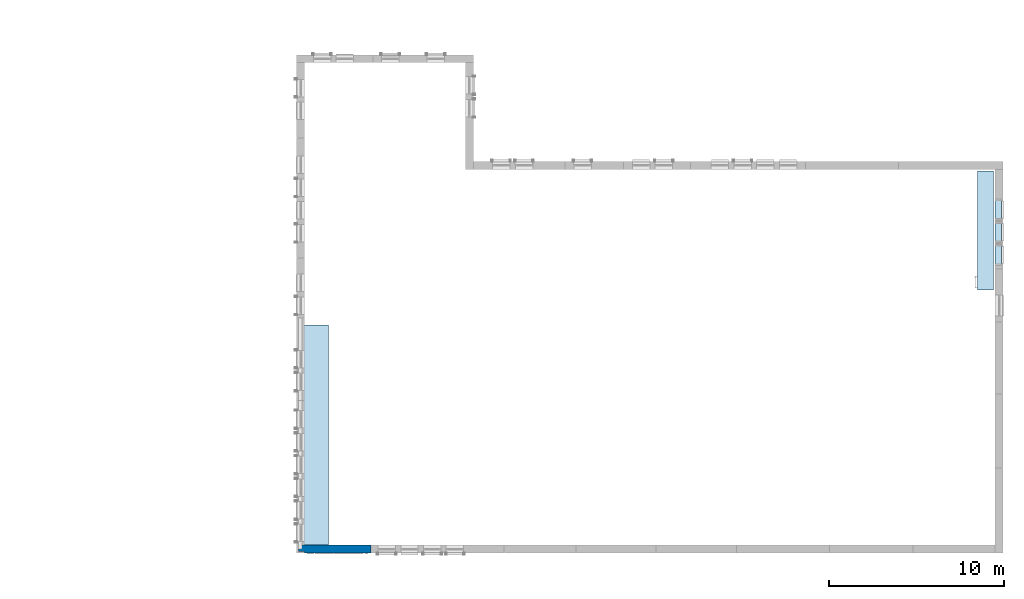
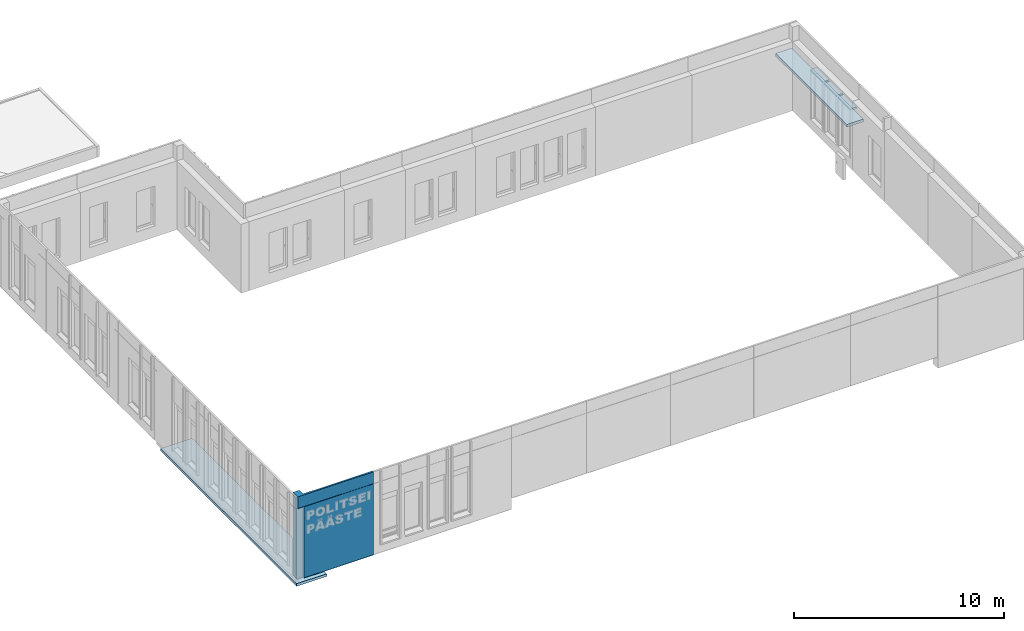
# One storey, part 1 of 33: 5 slabs, 1 wall, 2 openings.
"""IFC2X3 building model written with IfcOpenShell, lengths in millimetres."""

from ifc_helpers import new_model, entity, si_unit, converted_unit, derived_unit, direction, frame, frame_2d, origin, origin_2d_with_axis, place, context, subcontext, project, spatial, polyline, rectangle, outline, extrude, clip, bounded_halfspace, faceted_brep, material, layer, layer_set, layer_usage, type_object, element, save


model = new_model("IFC2X3")

# Units and contexts
model_context = context("Model", 3, precision=0.01, world=origin(), true_north=direction((6.12303176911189e-17, 1.0)))
body_context = subcontext(model_context, "Body", "Model", "MODEL_VIEW")
ifc_project = project(units=[si_unit("LENGTHUNIT", "METRE", prefix="MILLI"), si_unit("AREAUNIT", "SQUARE_METRE"), si_unit("VOLUMEUNIT", "CUBIC_METRE"), converted_unit("PLANEANGLEUNIT", "DEGREE", entity("IfcRatioMeasure", 0.0174532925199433), si_unit("PLANEANGLEUNIT", "RADIAN"), dimensions=[0, 0, 0, 0, 0, 0, 0]), si_unit("MASSUNIT", "GRAM", prefix="KILO"), derived_unit("MASSDENSITYUNIT", [(si_unit("MASSUNIT", "GRAM", prefix="KILO"), 1), (si_unit("LENGTHUNIT", "METRE"), -3)]), si_unit("TIMEUNIT", "SECOND"), si_unit("FREQUENCYUNIT", "HERTZ"), si_unit("THERMODYNAMICTEMPERATUREUNIT", "DEGREE_CELSIUS"), derived_unit("THERMALTRANSMITTANCEUNIT", [(si_unit("MASSUNIT", "GRAM", prefix="KILO"), 1), (si_unit("THERMODYNAMICTEMPERATUREUNIT", "KELVIN"), -1), (si_unit("TIMEUNIT", "SECOND"), -3)]), derived_unit("VOLUMETRICFLOWRATEUNIT", [(si_unit("LENGTHUNIT", "METRE"), 3), (si_unit("TIMEUNIT", "SECOND"), -1)]), si_unit("ELECTRICCURRENTUNIT", "AMPERE"), si_unit("ELECTRICVOLTAGEUNIT", "VOLT"), si_unit("POWERUNIT", "WATT"), si_unit("FORCEUNIT", "NEWTON", prefix="KILO"), si_unit("ILLUMINANCEUNIT", "LUX"), si_unit("LUMINOUSFLUXUNIT", "LUMEN"), si_unit("LUMINOUSINTENSITYUNIT", "CANDELA"), derived_unit("USERDEFINED", [(si_unit("MASSUNIT", "GRAM", prefix="KILO"), -1), (si_unit("LENGTHUNIT", "METRE"), -2), (si_unit("TIMEUNIT", "SECOND"), 3), (si_unit("LUMINOUSFLUXUNIT", "LUMEN"), 1)]), derived_unit("LINEARVELOCITYUNIT", [(si_unit("LENGTHUNIT", "METRE"), 1), (si_unit("TIMEUNIT", "SECOND"), -1)]), si_unit("PRESSUREUNIT", "PASCAL"), derived_unit("USERDEFINED", [(si_unit("LENGTHUNIT", "METRE"), -2), (si_unit("MASSUNIT", "GRAM", prefix="KILO"), 1), (si_unit("TIMEUNIT", "SECOND"), -2)])], contexts=[model_context])

# Site, building, storey
site_placement = place(None, origin())
site = spatial("IfcSite", under=ifc_project, at=site_placement, Name="Default", CompositionType="ELEMENT")
building_placement = place(site_placement, origin())
building = spatial("IfcBuilding", under=site, at=building_placement, CompositionType="ELEMENT")
storey_placement = place(building_placement, frame((0.0, 0.0, 4000.0)))
storey = spatial("IfcBuildingStorey", under=building, at=storey_placement, Name="2. KORRUS", CompositionType="ELEMENT", Elevation=4000.0)

# Slabs
ifc_material_1 = material(Name="Soojusisolatsioon PIR")
ifc_layer_1 = layer(ifc_material_1, 150.0)
ifc_layer_set_1 = layer_set([ifc_layer_1], Name="Floor:VL-3")
ifc_layer_usage_1 = layer_usage(ifc_layer_set_1, "AXIS3", "POSITIVE", 0.0)
slab_1_placement = place(storey_placement, origin())
element("IfcSlab", 1, at=slab_1_placement, inside=storey, material=ifc_layer_usage_1, Name="Floor:VL-3", ObjectType="Floor:VL-3", PredefinedType="FLOOR", context=body_context, shape_type="SweptSolid", body=[
    extrude(outline(polyline([(-4433.33333333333, -1126.35969139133), (8516.66666666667, -1126.35969139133), (8516.66666666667, 602.644845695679), (-4083.33333333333, 602.644845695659), (-4083.33333333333, 523.714845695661), (-4433.33333333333, 523.714845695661), (-4433.33333333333, -1126.35969139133)])), frame((776.359691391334, 4083.33333333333, -400.0), z_axis=(0.0, 0.0, -1.0), x_axis=(0.0, 1.0, 0.0)), (0.0, 0.0, 1.0), 150.0),
])
ifc_material_2 = material(Name="Soojusisolatsioon PIR fooliumkattega")
ifc_layer_2 = layer(ifc_material_2, 150.0)
ifc_layer_set_2 = layer_set([ifc_layer_2], Name="Floor:pir-fooliumkattega")
ifc_layer_usage_2 = layer_usage(ifc_layer_set_2, "AXIS3", "POSITIVE", 0.0)
slab_2_placement = place(storey_placement, origin())
element("IfcSlab", 2, at=slab_2_placement, inside=storey, material=ifc_layer_usage_2, Name="Floor:pir-fooliumkattega", ObjectType="Floor:pir-fooliumkattega", PredefinedType="FLOOR", context=body_context, shape_type="SweptSolid", body=[
    extrude(rectangle(XDim=6810.00000000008, YDim=899.925462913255, at=frame_2d((-1.13686837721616e-12, -4.32009983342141e-12), x_axis=(1.0, 0.0))), frame((38950.0372685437, 17995.0, 3600.0), z_axis=(0.0, 0.0, -1.0), x_axis=(0.0, 1.0, 0.0)), (0.0, 0.0, 1.0), 149.999999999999),
])
ifc_layer_3 = layer(ifc_material_2, 100.0)
ifc_layer_set_3 = layer_set([ifc_layer_3], Name="Floor:pir-paneel100")
ifc_layer_usage_3 = layer_usage(ifc_layer_set_3, "AXIS3", "POSITIVE", 0.0)
slab_3_placement = place(storey_placement, frame((39500.0, 16000.0, 3200.0)))
element("IfcSlab", 3, at=slab_3_placement, inside=storey, material=ifc_layer_usage_3, Name="Floor:pir-paneel100", ObjectType="Floor:pir-paneel100", PredefinedType="FLOOR", context=body_context, shape_type="SweptSolid", body=[
    extrude(rectangle(XDim=349.999999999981, YDim=1200.0, at=frame_2d((0.0, 1300.0), x_axis=(1.0, 0.0))), frame((175.0, 1900.0, 100.0), z_axis=(0.0, 0.0, -1.0), x_axis=(-1.0, 0.0, 0.0)), (0.0, 0.0, 1.0), 100.0),
])
slab_4_placement = place(storey_placement, frame((39500.0, 16000.0, 3200.0)))
element("IfcSlab", 4, at=slab_4_placement, inside=storey, material=ifc_layer_usage_3, Name="Floor:pir-paneel100:2", ObjectType="Floor:pir-paneel100", PredefinedType="FLOOR", context=body_context, shape_type="SweptSolid", body=[
    extrude(rectangle(XDim=349.999999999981, YDim=1200.0, at=origin_2d_with_axis()), frame((175.0, 1900.0, 100.0), z_axis=(0.0, 0.0, -1.0), x_axis=(-1.0, 0.0, 0.0)), (0.0, 0.0, 1.0), 100.0),
])
slab_5_placement = place(storey_placement, frame((39500.0, 16000.0, 3200.0)))
element("IfcSlab", 5, at=slab_5_placement, inside=storey, material=ifc_layer_usage_3, Name="Floor:pir-paneel100:3", ObjectType="Floor:pir-paneel100", PredefinedType="FLOOR", context=body_context, shape_type="SweptSolid", body=[
    extrude(rectangle(XDim=349.999999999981, YDim=1200.0, at=frame_2d((0.0, -1300.0), x_axis=(1.0, 0.0))), frame((175.0, 1900.0, 100.0), z_axis=(0.0, 0.0, -1.0), x_axis=(-1.0, 0.0, 0.0)), (0.0, 0.0, 1.0), 100.0),
])

# Wall, openings
ifc_material_3 = material(Name="RECKLI 1 173 THUR by Polantis 2016-toon1")
ifc_layer_4 = layer(ifc_material_3, 100.0)
ifc_layer_5 = layer(ifc_material_1, 150.0)
ifc_material_4 = material(Name="r/b")
ifc_layer_6 = layer(ifc_material_4, 200.0)
ifc_layer_set_4 = layer_set([ifc_layer_4, ifc_layer_5, ifc_layer_6], Name="Basic Wall:VS-2 -toon-d")
ifc_layer_usage_4 = layer_usage(ifc_layer_set_4, "AXIS2", "NEGATIVE", 225.0)
wall_type = type_object("IfcWallType", Name="Basic Wall:VS-2 -toon-d", PredefinedType="STANDARD", material=ifc_layer_set_4)
wall_placement = place(storey_placement, frame((3810.0, -225.0, -135.0), z_axis=(0.0, 0.0, 1.0), x_axis=(-1.0, 0.0, 0.0)))
wall = element("IfcWallStandardCase", 6, at=wall_placement, inside=storey, type_object=wall_type, material=ifc_layer_usage_4, Name="Basic Wall:VS-2 -toon-d", ObjectType="Basic Wall:VS-2 -toon-d", context=body_context, shape_type="Clipping", body=[
    clip(clip(extrude(rectangle(XDim=4160.00000000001, YDim=450.0, at=frame_2d((2080.00000000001, 2.8421709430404e-14), x_axis=(-1.0, 0.0))), origin(), (0.0, 0.0, 1.0), 4835.0), bounded_halfspace(frame((0.0, -225.0, 4135.0), z_axis=(0.0, 0.0, 1.0), x_axis=(0.0, 1.0, 0.0)), False, frame((0.0, -225.0, 4135.0)), polyline([(0.0, 0.0), (3810.0, 0.0), (3810.0, 350.0), (0.0, 350.0), (0.0, 0.0)]))), bounded_halfspace(frame((4160.0, 125.0, 4135.0), z_axis=(0.0, 0.0, -1.0), x_axis=(-1.0, 0.0, 0.0)), False, frame((4160.0, 125.0, 4135.0)), polyline([(0.0, 0.0), (0.0, 100.0), (-350.0, 100.0), (-350.0, 0.0), (0.0, 0.0)]))),
])
opening_1_placement = place(wall_placement, frame((4260.0, 225.0, 4.0)))
element("IfcOpeningElement", 7, at=opening_1_placement, cuts=wall, Name="Basic Wall:VS-2 -toon-d", ObjectType="Opening", context=body_context, shape_type="Brep", body=[
    faceted_brep([(-11850.0, -20.0, 16.0), (-11850.0, 0.0, 16.0), (-11850.0, 0.0, 0.0), (-11850.0, -20.0, 0.0), (-4260.0, -20.0, 16.0), (-4260.0, -20.0, 0.0), (-4260.0, 0.0, 0.0), (-4260.0, 0.0, 16.0)], [[[0, 1, 2, 3]], [[4, 5, 6, 7]], [[1, 0, 4, 7]], [[2, 1, 7, 6]], [[3, 2, 6, 5]], [[0, 3, 5, 4]]]),
    faceted_brep([(-20.0, -28480.0, 16.0), (-20.0, -28480.0, 0.0), (0.0, -28500.0, 0.0), (0.0, -28500.0, 16.0), (-20.0, -23740.0, 16.0), (0.0, -23740.0, 16.0), (0.0, -23740.0, 0.0), (-20.0, -23740.0, 0.0)], [[[0, 1, 2, 3]], [[4, 5, 6, 7]], [[1, 0, 4, 7]], [[2, 1, 7, 6]], [[3, 2, 6, 5]], [[0, 3, 5, 4]]]),
    faceted_brep([(-10080.0, -22380.0517807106, 16.0), (-10100.0, -22400.0517807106, 16.0), (-10100.0, -22400.0517807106, 0.0), (-10080.0, -22380.0517807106, 0.0), (-15330.3475962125, -22380.0517807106, 16.0), (-15330.3475962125, -22380.0517807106, 0.0), (-15330.3475962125, -22400.0517807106, 0.0), (-15330.3475962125, -22400.0517807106, 16.0)], [[[0, 1, 2, 3]], [[4, 5, 6, 7]], [[1, 0, 4, 7]], [[2, 1, 7, 6]], [[3, 2, 6, 5]], [[0, 3, 5, 4]]]),
    faceted_brep([(-20.0, -28480.0, 16.0), (0.0, -28500.0, 16.0), (0.0, -28500.0, 0.0), (-20.0, -28480.0, 0.0), (-4360.0, -28480.0, 16.0), (-4360.0, -28480.0, 0.0), (-4360.0, -28500.0, 0.0), (-4360.0, -28500.0, 16.0)], [[[0, 1, 2, 3]], [[4, 5, 6, 7]], [[1, 0, 4, 7]], [[2, 1, 7, 6]], [[3, 2, 6, 5]], [[0, 3, 5, 4]]]),
    faceted_brep([(-40380.0, -20.0, 16.0), (-40400.0, 0.0, 16.0), (-40400.0, 0.0, 0.0), (-40380.0, -20.0, 0.0), (-35250.0, -20.0, 16.0), (-35250.0, -20.0, 0.0), (-35250.0, 0.0, 0.0), (-35250.0, 0.0, 16.0)], [[[0, 1, 2, 3]], [[4, 5, 6, 7]], [[1, 0, 4, 7]], [[2, 1, 7, 6]], [[3, 2, 6, 5]], [[0, 3, 5, 4]]]),
    faceted_brep([(-34420.1035702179, -22380.0517807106, 16.0), (-34420.1035702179, -22400.0517807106, 16.0), (-34420.1035702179, -22400.0517807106, 0.0), (-34420.1035702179, -22380.0517807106, 0.0), (-40380.0, -22380.0517807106, 16.0), (-40380.0, -22380.0517807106, 0.0), (-40400.0, -22400.0517807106, 0.0), (-40400.0, -22400.0517807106, 16.0)], [[[0, 1, 2, 3]], [[4, 5, 6, 7]], [[1, 0, 4, 7]], [[2, 1, 7, 6]], [[3, 2, 6, 5]], [[0, 3, 5, 4]]]),
    faceted_brep([(-29113.2161487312, -22380.0517807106, 16.0), (-29113.2161487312, -22400.0517807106, 16.0), (-29113.2161487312, -22400.0517807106, 0.0), (-29113.2161487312, -22380.0517807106, 0.0), (-34420.1035702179, -22380.0517807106, 16.0), (-34420.1035702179, -22380.0517807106, 0.0), (-34420.1035702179, -22400.0517807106, 0.0), (-34420.1035702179, -22400.0517807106, 16.0)], [[[0, 1, 2, 3]], [[4, 5, 6, 7]], [[1, 0, 4, 7]], [[2, 1, 7, 6]], [[3, 2, 6, 5]], [[0, 3, 5, 4]]]),
    faceted_brep([(-10080.0, -28480.0, 16.0), (-10100.0, -28500.0, 16.0), (-10100.0, -28500.0, 0.0), (-10080.0, -28480.0, 0.0), (-10080.0, -22380.0517807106, 16.0), (-10080.0, -22380.0517807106, 0.0), (-10100.0, -22400.0517807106, 0.0), (-10100.0, -22400.0517807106, 16.0)], [[[0, 1, 2, 3]], [[4, 5, 6, 7]], [[1, 0, 4, 7]], [[2, 1, 7, 6]], [[3, 2, 6, 5]], [[0, 3, 5, 4]]]),
    faceted_brep([(-4260.0, -20.0, 16.0), (-4260.0, 0.0, 16.0), (-4260.0, 0.0, 0.0), (-4260.0, -20.0, 0.0), (0.0, -20.0, 16.0), (0.0, -20.0, 0.0), (0.0, 0.0, 0.0), (0.0, 0.0, 16.0)], [[[0, 1, 2, 3]], [[4, 5, 6, 7]], [[1, 0, 4, 7]], [[2, 1, 7, 6]], [[3, 2, 6, 5]], [[0, 3, 5, 4]]]),
    faceted_brep([(-40380.0, -4865.0, 16.0), (-40400.0, -4865.0, 16.0), (-40400.0, -4865.0, 0.0), (-40380.0, -4865.0, 0.0), (-40380.0, -20.0, 16.0), (-40380.0, -20.0, 0.0), (-40400.0, 0.0, 0.0), (-40400.0, 0.0, 16.0)], [[[0, 1, 2, 3]], [[4, 5, 6, 7]], [[1, 0, 4, 7]], [[2, 1, 7, 6]], [[3, 2, 6, 5]], [[0, 3, 5, 4]]]),
    faceted_brep([(-40380.0, -9093.33000000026, 16.0), (-40400.0, -9093.33000000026, 16.0), (-40400.0, -9093.33000000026, 0.0), (-40380.0, -9093.33000000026, 0.0), (-40380.0, -4865.0, 16.0), (-40380.0, -4865.0, 0.0), (-40400.0, -4865.0, 0.0), (-40400.0, -4865.0, 16.0)], [[[0, 1, 2, 3]], [[4, 5, 6, 7]], [[1, 0, 4, 7]], [[2, 1, 7, 6]], [[3, 2, 6, 5]], [[0, 3, 5, 4]]]),
    faceted_brep([(-40380.0, -13210.0, 16.0), (-40400.0, -13210.0, 16.0), (-40400.0, -13210.0, 0.0), (-40380.0, -13210.0, 0.0), (-40380.0, -9093.33000000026, 16.0), (-40380.0, -9093.33000000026, 0.0), (-40400.0, -9093.33000000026, 0.0), (-40400.0, -9093.33000000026, 16.0)], [[[0, 1, 2, 3]], [[4, 5, 6, 7]], [[1, 0, 4, 7]], [[2, 1, 7, 6]], [[3, 2, 6, 5]], [[0, 3, 5, 4]]]),
    faceted_brep([(-40380.0, -16240.0, 16.0), (-40400.0, -16240.0, 16.0), (-40400.0, -16240.0, 0.0), (-40380.0, -16240.0, 0.0), (-40380.0, -13210.0, 16.0), (-40380.0, -13210.0, 0.0), (-40400.0, -13210.0, 0.0), (-40400.0, -13210.0, 16.0)], [[[0, 1, 2, 3]], [[4, 5, 6, 7]], [[1, 0, 4, 7]], [[2, 1, 7, 6]], [[3, 2, 6, 5]], [[0, 3, 5, 4]]]),
    faceted_brep([(-40380.0, -22380.0517807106, 16.0), (-40400.0, -22400.0517807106, 16.0), (-40400.0, -22400.0517807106, 0.0), (-40380.0, -22380.0517807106, 0.0), (-40380.0, -16240.0, 16.0), (-40380.0, -16240.0, 0.0), (-40400.0, -16240.0, 0.0), (-40400.0, -16240.0, 16.0)], [[[0, 1, 2, 3]], [[4, 5, 6, 7]], [[1, 0, 4, 7]], [[2, 1, 7, 6]], [[3, 2, 6, 5]], [[0, 3, 5, 4]]]),
    faceted_brep([(-22535.0, -22380.0517807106, 16.0), (-22535.0, -22400.0517807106, 16.0), (-22535.0, -22400.0517807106, 0.0), (-22535.0, -22380.0517807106, 0.0), (-29113.2161487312, -22380.0517807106, 16.0), (-29113.2161487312, -22380.0517807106, 0.0), (-29113.2161487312, -22400.0517807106, 0.0), (-29113.2161487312, -22400.0517807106, 16.0)], [[[0, 1, 2, 3]], [[4, 5, 6, 7]], [[1, 0, 4, 7]], [[2, 1, 7, 6]], [[3, 2, 6, 5]], [[0, 3, 5, 4]]]),
    faceted_brep([(-18703.3528910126, -22380.0517807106, 16.0), (-18703.3528910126, -22400.0517807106, 16.0), (-18703.3528910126, -22400.0517807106, 0.0), (-18703.3528910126, -22380.0517807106, 0.0), (-22535.0, -22380.0517807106, 16.0), (-22535.0, -22380.0517807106, 0.0), (-22535.0, -22400.0517807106, 0.0), (-22535.0, -22400.0517807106, 16.0)], [[[0, 1, 2, 3]], [[4, 5, 6, 7]], [[1, 0, 4, 7]], [[2, 1, 7, 6]], [[3, 2, 6, 5]], [[0, 3, 5, 4]]]),
    faceted_brep([(-15330.3475962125, -22380.0517807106, 16.0), (-15330.3475962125, -22400.0517807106, 16.0), (-15330.3475962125, -22400.0517807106, 0.0), (-15330.3475962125, -22380.0517807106, 0.0), (-18703.3528910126, -22380.0517807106, 16.0), (-18703.3528910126, -22380.0517807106, 0.0), (-18703.3528910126, -22400.0517807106, 0.0), (-18703.3528910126, -22400.0517807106, 16.0)], [[[0, 1, 2, 3]], [[4, 5, 6, 7]], [[1, 0, 4, 7]], [[2, 1, 7, 6]], [[3, 2, 6, 5]], [[0, 3, 5, 4]]]),
    faceted_brep([(-4360.0, -28480.0, 16.0), (-4360.0, -28500.0, 16.0), (-4360.0, -28500.0, 0.0), (-4360.0, -28480.0, 0.0), (-10080.0, -28480.0, 16.0), (-10080.0, -28480.0, 0.0), (-10100.0, -28500.0, 0.0), (-10100.0, -28500.0, 16.0)], [[[0, 1, 2, 3]], [[4, 5, 6, 7]], [[1, 0, 4, 7]], [[2, 1, 7, 6]], [[3, 2, 6, 5]], [[0, 3, 5, 4]]]),
    faceted_brep([(-20.0, -23740.0, 16.0), (-20.0, -23740.0, 0.0), (0.0, -23740.0, 0.0), (0.0, -23740.0, 16.0), (-20.0, -16890.0006972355, 16.0), (0.0, -16890.0006972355, 16.0), (0.0, -16890.0006972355, 0.0), (-20.0, -16890.0006972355, 0.0)], [[[0, 1, 2, 3]], [[4, 5, 6, 7]], [[1, 0, 4, 7]], [[2, 1, 7, 6]], [[3, 2, 6, 5]], [[0, 3, 5, 4]]]),
    faceted_brep([(-20.0, -16890.0006972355, 16.0), (-20.0, -16890.0006972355, 0.0), (0.0, -16890.0006972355, 0.0), (0.0, -16890.0006972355, 16.0), (-20.0, -13460.0, 16.0), (0.0, -13460.0, 16.0), (0.0, -13460.0, 0.0), (-20.0, -13460.0, 0.0)], [[[0, 1, 2, 3]], [[4, 5, 6, 7]], [[1, 0, 4, 7]], [[2, 1, 7, 6]], [[3, 2, 6, 5]], [[0, 3, 5, 4]]]),
])
opening_2_placement = place(wall_placement, origin())
element("IfcOpeningElement", 8, at=opening_2_placement, cuts=wall, Name="Basic Wall:VS-2 -toon-d", ObjectType="Opening", context=body_context, shape_type="SweptSolid", body=[
    extrude(rectangle(XDim=15.9999999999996, YDim=7590.0, at=frame_2d((0.0, 5.40900657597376e-13), x_axis=(0.0, 1.0))), frame((-3795.0, 205.0, 4147.0), z_axis=(0.0, 1.0, 0.0), x_axis=(1.0, 0.0, 0.0)), (0.0, 0.0, 1.0), 20.0),
    extrude(rectangle(XDim=15.9999999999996, YDim=20.0, at=frame_2d((-3.37507799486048e-14, 5.40900657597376e-13), x_axis=(0.0, 1.0))), frame((4250.0, -28175.0, 4147.0), z_axis=(0.0, 1.0, 0.0), x_axis=(1.0, 0.0, 0.0)), (0.0, 0.0, 1.0), 4660.0),
    extrude(rectangle(XDim=15.9999999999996, YDim=5230.3475962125, at=frame_2d((1.13686837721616e-12, -5.40900657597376e-13), x_axis=(0.0, 1.0))), frame((-8455.17379810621, -22175.0517807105, 4147.0), z_axis=(0.0, 1.0, 0.0), x_axis=(-1.0, 0.0, 0.0)), (0.0, 0.0, 1.0), 19.9999999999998),
    extrude(rectangle(XDim=15.9999999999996, YDim=4360.0, at=frame_2d((0.0, -5.40900657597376e-13), x_axis=(0.0, 1.0))), frame((2080.0, -28275.0, 4147.0), z_axis=(0.0, 1.0, 0.0), x_axis=(-1.0, 0.0, 0.0)), (0.0, 0.0, 1.0), 19.9999999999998),
    extrude(rectangle(XDim=15.9999999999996, YDim=5050.0, at=frame_2d((2.27373675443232e-12, 0.0), x_axis=(0.0, 1.0))), frame((-33515.0, 205.0, 4147.0), z_axis=(0.0, 1.0, 0.0), x_axis=(1.0, 0.0, 0.0)), (0.0, 0.0, 1.0), 20.0),
    extrude(rectangle(XDim=15.9999999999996, YDim=5979.89642978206, at=frame_2d((-2.27373675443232e-12, 0.0), x_axis=(0.0, 1.0))), frame((-33150.0517851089, -22175.0517807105, 4147.0), z_axis=(0.0, 1.0, 0.0), x_axis=(-1.0, 0.0, 0.0)), (0.0, 0.0, 1.0), 19.9999999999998),
    extrude(rectangle(XDim=15.9999999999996, YDim=5306.88742148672, at=frame_2d((2.04636307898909e-12, -5.40900657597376e-13), x_axis=(0.0, 1.0))), frame((-27506.6598594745, -22175.0517807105, 4147.0), z_axis=(0.0, 1.0, 0.0), x_axis=(-1.0, 0.0, 0.0)), (0.0, 0.0, 1.0), 19.9999999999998),
    extrude(rectangle(XDim=15.9999999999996, YDim=19.9999999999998, at=frame_2d((-5.40900657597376e-13, 0.0), x_axis=(1.0, 0.0))), frame((-5830.0, -28175.0, 4147.0), z_axis=(0.0, 1.0, 0.0), x_axis=(0.0, 0.0, -1.0)), (0.0, 0.0, 1.0), 6099.94821928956),
    extrude(rectangle(XDim=15.9999999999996, YDim=4160.00000000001, at=frame_2d((0.0, 5.40900657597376e-13), x_axis=(0.0, 1.0))), frame((2080.0, 205.0, 4147.0), z_axis=(0.0, 1.0, 0.0), x_axis=(1.0, 0.0, 0.0)), (0.0, 0.0, 1.0), 20.0),
    extrude(rectangle(XDim=15.9999999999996, YDim=20.0000000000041, at=frame_2d((5.40900657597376e-13, -4.33164615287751e-12), x_axis=(1.0, 0.0))), frame((-36130.0, -4640.0, 4147.0), z_axis=(0.0, 1.0, 0.0), x_axis=(0.0, 0.0, -1.0)), (0.0, 0.0, 1.0), 4865.0),
    extrude(rectangle(XDim=15.9999999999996, YDim=20.0000000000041, at=frame_2d((5.40900657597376e-13, -4.33164615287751e-12), x_axis=(1.0, 0.0))), frame((-36130.0, -8868.33000000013, 4147.0), z_axis=(0.0, 1.0, 0.0), x_axis=(0.0, 0.0, -1.0)), (0.0, 0.0, 1.0), 4228.33000000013),
    extrude(rectangle(XDim=15.9999999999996, YDim=20.0000000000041, at=frame_2d((5.40900657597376e-13, -4.33164615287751e-12), x_axis=(1.0, 0.0))), frame((-36130.0, -13105.0, 4147.0), z_axis=(0.0, 1.0, 0.0), x_axis=(0.0, 0.0, -1.0)), (0.0, 0.0, 1.0), 4236.66999997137),
    extrude(rectangle(XDim=15.9999999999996, YDim=20.0000000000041, at=frame_2d((5.40900657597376e-13, -4.33164615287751e-12), x_axis=(1.0, 0.0))), frame((-36130.0, -16015.0, 4147.0), z_axis=(0.0, 1.0, 0.0), x_axis=(0.0, 0.0, -1.0)), (0.0, 0.0, 1.0), 2910.00000002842),
    extrude(rectangle(XDim=15.9999999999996, YDim=20.0000000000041, at=frame_2d((-5.40900657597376e-13, 4.33164615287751e-12), x_axis=(1.0, 0.0))), frame((-36130.0, -22075.0517807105, 4147.0), z_axis=(0.0, 1.0, 0.0), x_axis=(0.0, 0.0, -1.0)), (0.0, 0.0, 1.0), 6060.05178071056),
    extrude(rectangle(XDim=15.9999999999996, YDim=3831.64710898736, at=frame_2d((2.1600499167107e-12, -5.40900657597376e-13), x_axis=(0.0, 1.0))), frame((-16359.1764455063, -22175.0517807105, 4147.0), z_axis=(0.0, 1.0, 0.0), x_axis=(-1.0, 0.0, 0.0)), (0.0, 0.0, 1.0), 19.9999999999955),
    extrude(rectangle(XDim=15.9999999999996, YDim=3373.00529480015, at=frame_2d((0.0, -5.40900657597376e-13), x_axis=(0.0, 1.0))), frame((-12756.8502436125, -22175.0517807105, 4147.0), z_axis=(0.0, 1.0, 0.0), x_axis=(-1.0, 0.0, 0.0)), (0.0, 0.0, 1.0), 19.9999999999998),
    extrude(rectangle(XDim=15.9999999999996, YDim=5739.99999999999, at=frame_2d((-2.27373675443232e-13, -5.40900657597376e-13), x_axis=(0.0, 1.0))), frame((-2970.0, -28275.0, 4147.0), z_axis=(0.0, 1.0, 0.0), x_axis=(-1.0, 0.0, 0.0)), (0.0, 0.0, 1.0), 19.9999999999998),
    extrude(rectangle(XDim=15.9999999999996, YDim=20.0, at=frame_2d((3.37507799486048e-14, 5.40900657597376e-13), x_axis=(0.0, 1.0))), frame((4250.0, -23515.0, 4147.0), z_axis=(0.0, 1.0, 0.0), x_axis=(1.0, 0.0, 0.0)), (0.0, 0.0, 1.0), 6849.99930276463),
    extrude(rectangle(XDim=15.9999999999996, YDim=20.0, at=frame_2d((-3.37507799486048e-14, 5.40900657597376e-13), x_axis=(0.0, 1.0))), frame((4250.0, -16665.0006972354, 4147.0), z_axis=(0.0, 1.0, 0.0), x_axis=(1.0, 0.0, 0.0)), (0.0, 0.0, 1.0), 3430.00069726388),
    extrude(rectangle(XDim=15.9999999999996, YDim=6578.21614873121, at=frame_2d((0.0, -5.40900657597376e-13), x_axis=(0.0, 1.0))), frame((-21564.1080743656, -22175.0517807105, 4147.0), z_axis=(0.0, 1.0, 0.0), x_axis=(-1.0, 0.0, 0.0)), (0.0, 0.0, 1.0), 19.9999999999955),
    extrude(rectangle(XDim=15.9999999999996, YDim=4110.00000000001, at=frame_2d((0.0, 5.40900657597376e-13), x_axis=(0.0, 1.0))), frame((-9645.0, 205.0, 4147.0), z_axis=(0.0, 1.0, 0.0), x_axis=(1.0, 0.0, 0.0)), (0.0, 0.0, 1.0), 19.9999999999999),
    extrude(rectangle(XDim=15.9999999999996, YDim=4600.0, at=frame_2d((1.13686837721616e-12, 5.40900657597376e-13), x_axis=(0.0, 1.0))), frame((-14000.0, 205.0, 4147.0), z_axis=(0.0, 1.0, 0.0), x_axis=(1.0, 0.0, 0.0)), (0.0, 0.0, 1.0), 20.0),
    extrude(rectangle(XDim=15.9999999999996, YDim=4600.0, at=frame_2d((2.27373675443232e-12, 5.40900657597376e-13), x_axis=(0.0, 1.0))), frame((-18600.0, 205.0, 4147.0), z_axis=(0.0, 1.0, 0.0), x_axis=(1.0, 0.0, 0.0)), (0.0, 0.0, 1.0), 20.0),
    extrude(rectangle(XDim=15.9999999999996, YDim=5299.99999999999, at=frame_2d((-2.04636307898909e-12, 5.40900657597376e-13), x_axis=(0.0, 1.0))), frame((-23550.0, 205.0, 4147.0), z_axis=(0.0, 1.0, 0.0), x_axis=(1.0, 0.0, 0.0)), (0.0, 0.0, 1.0), 20.0),
    extrude(rectangle(XDim=15.9999999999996, YDim=4790.0, at=frame_2d((0.0, 5.40900657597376e-13), x_axis=(0.0, 1.0))), frame((-28595.0, 205.0, 4147.0), z_axis=(0.0, 1.0, 0.0), x_axis=(1.0, 0.0, 0.0)), (0.0, 0.0, 1.0), 20.0000000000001),
    extrude(rectangle(XDim=15.9999999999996, YDim=20.0, at=frame_2d((3.37507799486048e-14, 5.40900657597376e-13), x_axis=(0.0, 1.0))), frame((4250.0, -13235.0, 4147.0), z_axis=(0.0, 1.0, 0.0), x_axis=(1.0, 0.0, 0.0)), (0.0, 0.0, 1.0), 4724.85920481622),
    extrude(rectangle(XDim=15.9999999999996, YDim=20.0, at=frame_2d((-3.37507799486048e-14, 5.40900657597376e-13), x_axis=(0.0, 1.0))), frame((4250.0, -8510.1407951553, 4147.0), z_axis=(0.0, 1.0, 0.0), x_axis=(1.0, 0.0, 0.0)), (0.0, 0.0, 1.0), 8735.1407951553),
])

save(model, "model.ifc")
